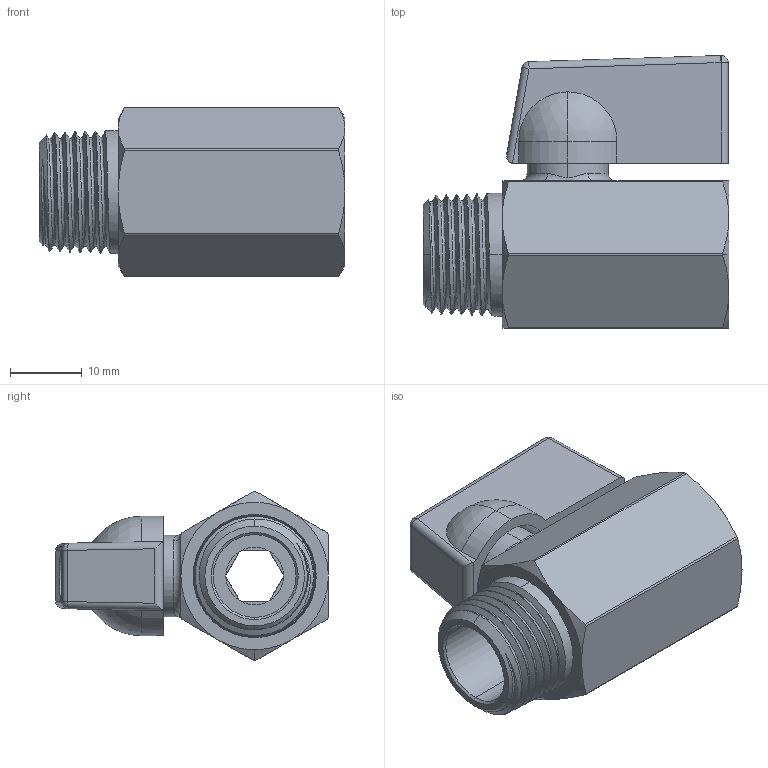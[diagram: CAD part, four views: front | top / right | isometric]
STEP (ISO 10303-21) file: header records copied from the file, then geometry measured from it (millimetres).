
FILE_DESCRIPTION (( 'STEP AP214' ), '1' );
FILE_NAME ('100-442.STEP', '2025-11-06T16:38:43', ( '' ), ( '' ), 'SwSTEP 2.0', 'SolidWorks 2025', '' );
FILE_SCHEMA (( 'AUTOMOTIVE_DESIGN' ));
Length unit declared in the file: inch
Products named in the file (10): 100-442; O-ring_15.STEP; 1073.STEP; 1073___3.STEP; 1051_____15.STEP; 31_______15.STEP; 14___12.STEP; _____15.STEP; 1073__-0_1.STEP; 12_______12.STEP
Assembly tree (11 placements, depth 3):
  100-442
    1073.STEP
      1073___3.STEP
      1051_____15.STEP
      1073__-0_1.STEP
      12_______12.STEP  x2
      14___12.STEP
      31_______15.STEP
      O-ring_15.STEP  x2
      _____15.STEP
Bounding box: 42.5 x 37.92 x 23.5 mm (x, y, z)
Volume: 12561.6 mm3; surface area: 12012.5 mm2
Topology: 10 solids, 10 shells, 344 faces, 845 edges, 531 vertices
Faces by surface type: cylinder 113, plane 90, cone 62, bspline 33, torus 26, sphere 20
Entity records: 30418 total; most frequent: CARTESIAN_POINT 22686, ORIENTED_EDGE 1602, DIRECTION 1525, EDGE_CURVE 801, AXIS2_PLACEMENT_3D 627, VERTEX_POINT 507, EDGE_LOOP 352, FACE_OUTER_BOUND 324
